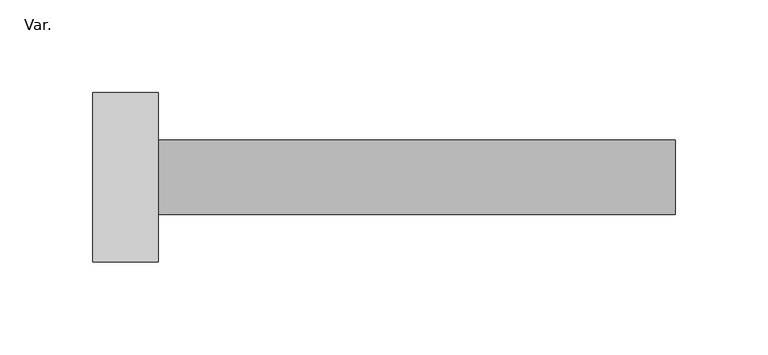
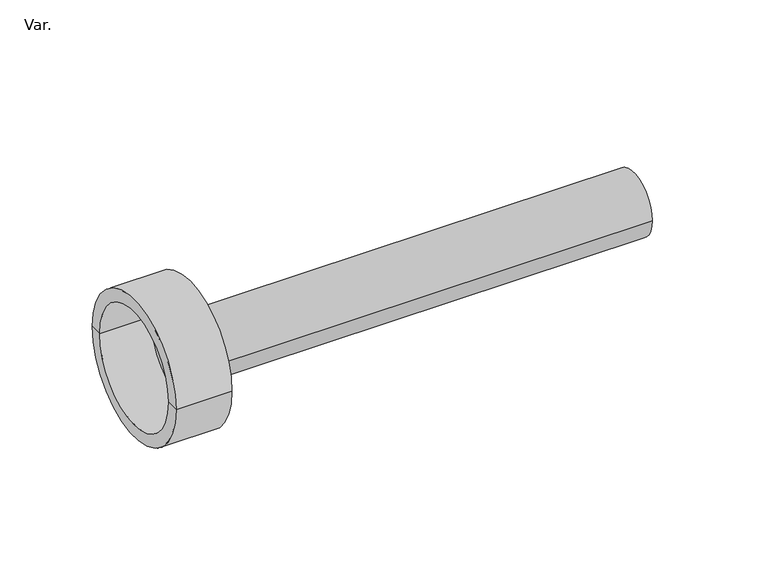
"""IFC4 building model written with IfcOpenShell, lengths in millimetres: pipe fitting geometry, Z_PAVCO_PVC QS_Outlet Connector (nested) : Var.."""

from ifc_helpers import new_model, si_unit, point, frame, origin, origin_2d, place, context, project, spatial, polyline, circle_curve, trimmed, segment, composite_curve, outline, extrude, source, transform, mapped, element, save
from ifc_brep_helpers import plane_surface, cylinder_surface, revolved_surface, advanced_brep


def var_8b9cdce2(model_context):
    return source(origin(), model_context, "Body", "SolidModel", [
        extrude(outline(composite_curve([segment(trimmed(circle_curve(origin_2d(), 20.0), [point((-20.0, 0.0))], [point((20.0, 0.0))], False, "CARTESIAN"), True, "CONTINUOUS"), segment(trimmed(circle_curve(origin_2d(), 20.0), [point((20.0, 0.0))], [point((-20.0, 0.0))], False, "CARTESIAN"), True, "CONTINUOUS")], self_intersect=False)), frame((0.0, 0.0, 0.0), z_axis=(1.0, 0.0, 0.0), x_axis=(0.0, 1.0, 0.0)), (0.0, 0.0, 1.0), 281.0),
        advanced_brep(
        [(-32.0, 37.5, 0.0), (-32.0, -37.5, 0.0), (0.0, -37.5, 0.0), (0.0, 37.5, 0.0), (-32.0, 45.5, 0.0), (-32.0, -45.5, 0.0), (3.0, 45.5, 0.0), (3.0, -45.5, 0.0), (3.0, 0.0, 0.0), (0.0, 0.0, 0.0)],
        [
            (0, 1, circle_curve(frame((-32.0, 0.0, 0.0), z_axis=(-1.0, 0.0, 0.0), x_axis=(0.0, -1.0, 0.0)), 37.5)),
            (1, 2),
            (2, 3, circle_curve(frame((0.0, 0.0, 0.0), z_axis=(1.0, 0.0, 0.0), x_axis=(0.0, -1.0, 0.0)), 37.5)),
            (3, 0),
            (1, 0, circle_curve(frame((-32.0, 0.0, 0.0), z_axis=(-1.0, 0.0, 0.0), x_axis=(0.0, -1.0, 0.0)), 37.5)),
            (3, 2, circle_curve(frame((0.0, 0.0, 0.0), z_axis=(1.0, 0.0, 0.0), x_axis=(0.0, -1.0, 0.0)), 37.5)),
            (4, 5, circle_curve(frame((-32.0, 0.0, 0.0), z_axis=(-1.0, 0.0, 0.0), x_axis=(0.0, -1.0, 0.0)), 45.5)),
            (5, 1),
            (0, 4),
            (5, 4, circle_curve(frame((-32.0, 0.0, 0.0), z_axis=(-1.0, 0.0, 0.0), x_axis=(0.0, -1.0, 0.0)), 45.5)),
            (6, 7, circle_curve(frame((3.0, 0.0, 0.0), z_axis=(-1.0, 0.0, 0.0), x_axis=(0.0, -1.0, 0.0)), 45.5)),
            (7, 5),
            (4, 6),
            (7, 6, circle_curve(frame((3.0, 0.0, 0.0), z_axis=(-1.0, 0.0, 0.0), x_axis=(0.0, -1.0, 0.0)), 45.5)),
            (8, 7),
            (6, 8),
            (2, 9),
            (9, 3),
        ],
        [
            revolved_surface(polyline([(0.0, -37.5, 0.0), (-32.0, -37.5, 0.0)]), (0.0, 0.0, 0.0), (1.0, 0.0, 0.0)),
            plane_surface(frame((-32.0, 0.0, 0.0), z_axis=(-1.0, 0.0, 0.0), x_axis=(0.0, -1.0, 0.0))),
            cylinder_surface(frame((0.0, 0.0, 0.0), z_axis=(1.0, 0.0, 0.0), x_axis=(0.0, -1.0, 0.0)), 45.5),
            plane_surface(frame((3.0, 0.0, 0.0), z_axis=(1.0, 0.0, 0.0), x_axis=(0.0, -1.0, 0.0))),
            plane_surface(frame((0.0, 0.0, 0.0), z_axis=(-1.0, 0.0, 0.0), x_axis=(0.0, -1.0, 0.0))),
        ],
        [
            (0, [[1, 2, 3, 4]]),
            (0, [[5, -4, 6, -2]]),
            (1, [[7, 8, -1, 9]]),
            (1, [[10, -9, -5, -8]]),
            (2, [[11, 12, -7, 13]]),
            (2, [[14, -13, -10, -12]]),
            (3, [[15, -11, 16]]),
            (3, [[-16, -14, -15]]),
            (4, [[-3, 17, 18]]),
            (4, [[-6, -18, -17]]),
        ],
    ),
    ])


if __name__ == "__main__":
    model = new_model("IFC4")
    model_context = context("Model", 3, world=origin())
    ifc_project = project(units=[si_unit("LENGTHUNIT", "METRE", prefix="MILLI")], contexts=[model_context])
    site = spatial("IfcSite", under=ifc_project)
    building = spatial("IfcBuilding", under=site)
    placement = place(None, origin())
    var_shape = var_8b9cdce2(model_context)
    element("IfcPipeFitting", 1, ObjectType="Z_PAVCO_PVC QS_Outlet Connector (nested) : Var.", at=placement, inside=building, context=model_context, shape_type="MappedRepresentation", body=[
        mapped(var_shape, transform((0.0, 0.0, 0.0), x_axis=(1.0, 0.0, 0.0), y_axis=(0.0, 1.0, 0.0), z_axis=(0.0, 0.0, 1.0))),
    ])
    save(model, "model.ifc")
